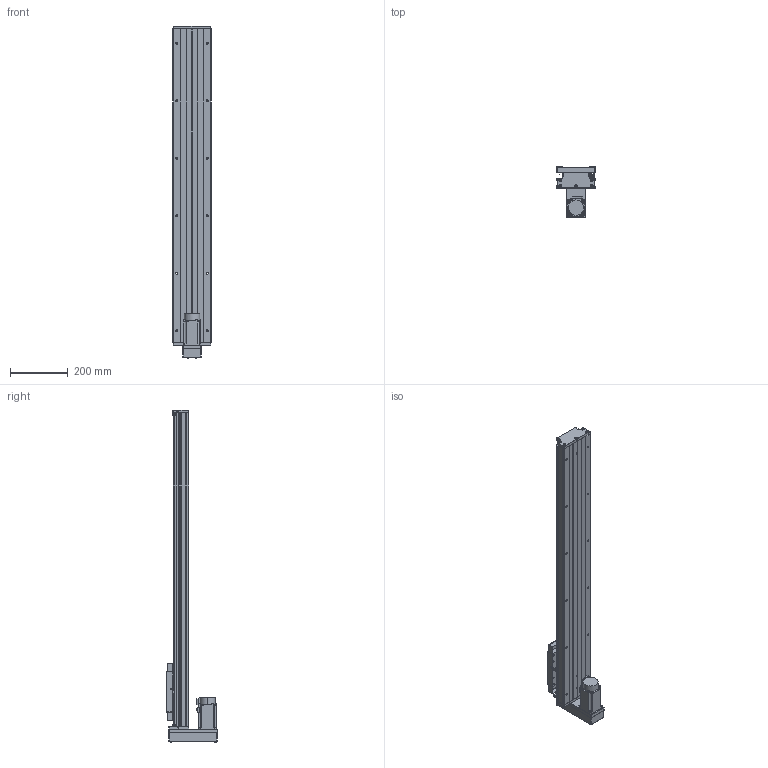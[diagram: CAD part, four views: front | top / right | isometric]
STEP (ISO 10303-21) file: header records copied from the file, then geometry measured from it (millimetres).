
FILE_DESCRIPTION (( 'STEP AP203' ), '1' );
FILE_NAME ('GTH14-850-BM-M40-C4.step', '2023-06-30T08:47:40', ( '微软用户' ), ( '微软中国' ), 'SwSTEP 2.0', 'SolidWorks 2020', '' );
FILE_SCHEMA (( 'CONFIG_CONTROL_DESIGN' ));
Length unit declared in the file: millimetre
Products named in the file (19): GBT70.1 M5℅16; GBT 70.2-M3¡Á5_M3¡Á6; CTHA60-017; す晦芛蹟隊 M3℅5; GTH14-001_850; EE_SX911P_R; HG-KN43J-S100; GTH14-002_GTH14-002; CTHA60-016; GBT 70.2-M4¡Á35_M4¡Á35; GTH14-004; GBT 70.1-M3℅5; GTH14-015-2_CTHA86-015-2; GTH14-005; GBT77-2000 M3×3; GTH14-033; GB1155-6X6; GTH14-031; GTH14-850-BM-M40-C4
Assembly tree (58 placements, depth 2):
  GTH14-850-BM-M40-C4
    GTH14-001_850
    GTH14-002_GTH14-002
    GTH14-004
    GTH14-005
    GB1155-6X6  x2
    GBT70.1 M5℅16  x10
    CTHA60-017  x3
    EE_SX911P_R  x3
    CTHA60-016  x2
    GBT 70.1-M3℅5  x6
    GBT77-2000 M3×3  x6
    GTH14-031
    GBT 70.2-M3¡Á5_M3¡Á6  x8
    す晦芛蹟隊 M3℅5  x6
    HG-KN43J-S100
    GBT 70.2-M4¡Á35_M4¡Á35  x4
    GTH14-015-2_CTHA86-015-2
    GTH14-033
Bounding box: 135 x 177.5 x 1154.2 mm (x, y, z)
Volume: 6246178.9 mm3; surface area: 1022181 mm2
Topology: 61 solids, 61 shells, 2463 faces, 5857 edges, 3610 vertices
Faces by surface type: plane 1309, cylinder 664, cone 314, torus 124, sphere 32, bspline 20
Entity records: 44466 total; most frequent: CARTESIAN_POINT 9907, DIRECTION 6549, ORIENTED_EDGE 6404, EDGE_CURVE 3202, AXIS2_PLACEMENT_3D 2244, VECTOR 2061, LINE 2061, VERTEX_POINT 2028
